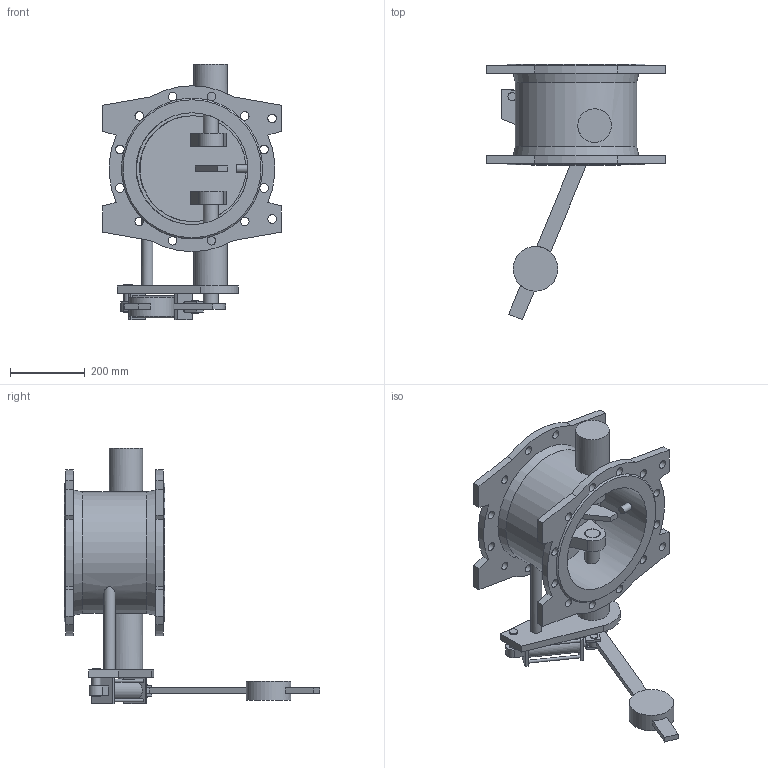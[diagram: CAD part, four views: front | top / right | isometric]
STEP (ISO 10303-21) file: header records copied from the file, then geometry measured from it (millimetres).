
FILE_DESCRIPTION(('STEP AP203'), '1');
FILE_NAME('Êëàïàí 015F.PV DN300 PN10 ñ ïðîòèâîâåñîì ñ äåìïôåðîì', '', ('UNSPECIFIED'), ('UNSPECIFIED'), 'ASCON STEP Converter 1.6', 'ASCON Math Kernel', '');
FILE_SCHEMA(('CONFIG_CONTROL_DESIGN'));
Length unit declared in the file: millimetre
Bounding box: 480 x 685 x 685 mm (x, y, z)
Volume: 12989292.6 mm3; surface area: 1558193.9 mm2
Topology: 1 solids, 1 shells, 179 faces, 509 edges, 337 vertices
Faces by surface type: plane 100, cylinder 70, cone 4, extrusion 2, torus 2, bspline 1
Full cylindrical faces by diameter (mm): 8 x4, 12 x1, 14 x2, 20 x5, 22 x3, 23 x28, 25 x1, 30 x1, 40 x3, 42 x2, 50 x1, 90 x2, 120 x1, 300 x1, 326 x1
Entity records: 10154 total; most frequent: CARTESIAN_POINT 4048, DIRECTION 938, ORIENTED_EDGE 880, EDGE_CURVE 440, AXIS2_PLACEMENT_3D 367, VERTEX_POINT 336, EDGE_LOOP 330, FACE_BOUND 231
